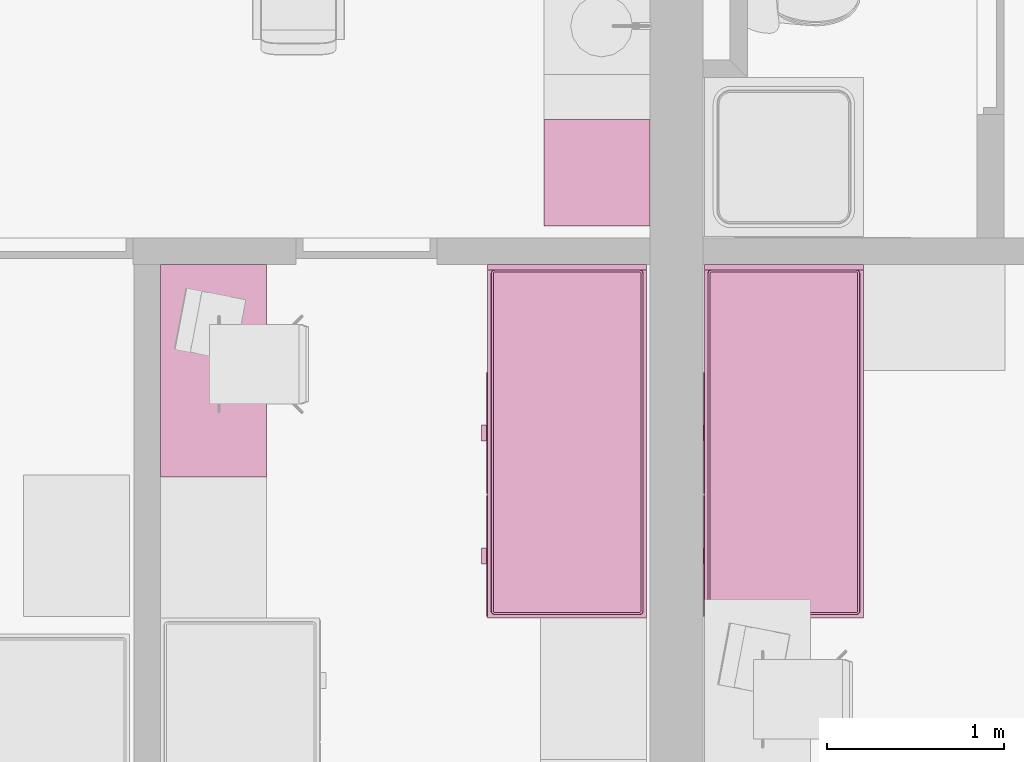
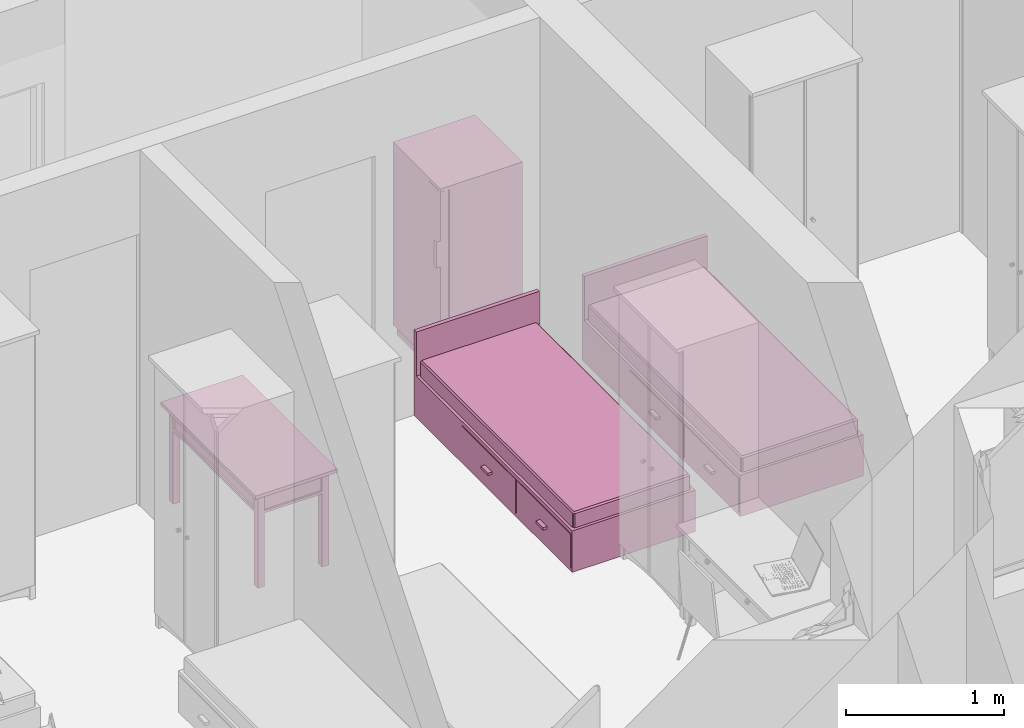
# One storey, part 130 of 172: 4 furnishings.
"""IFC2X3 building model written with IfcOpenShell, lengths in millimetres."""

from ifc_helpers import new_model, entity, si_unit, converted_unit, money_unit, direction, frame, origin_with_axes, place, context, subcontext, project, spatial, open_shell, faceted_brep, surface_model, source, transform, mapped, material, material_list, type_object, element, save


model = new_model("IFC2X3")

# Units and contexts
model_context = context("Model", 3, precision=1e-05, world=origin_with_axes(), true_north=direction((0.0, 1.0)))
body_context = subcontext(model_context, "Body", "Model", "MODEL_VIEW")
ifc_project = project(units=[si_unit("LENGTHUNIT", "METRE", prefix="MILLI"), si_unit("AREAUNIT", "SQUARE_METRE"), si_unit("VOLUMEUNIT", "CUBIC_METRE"), converted_unit("PLANEANGLEUNIT", "DEGREE", entity("IfcPlaneAngleMeasure", 0.0174532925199), si_unit("PLANEANGLEUNIT", "RADIAN"), dimensions=[0, 0, 0, 0, 0, 0, 0]), si_unit("SOLIDANGLEUNIT", "STERADIAN"), money_unit("USD"), converted_unit("TIMEUNIT", "Year", entity("IfcTimeMeasure", 31556926.0), si_unit("TIMEUNIT", "SECOND"), dimensions=[0, 0, 0, 0, 0, 0, 0]), si_unit("MASSUNIT", "GRAM"), si_unit("THERMODYNAMICTEMPERATUREUNIT", "DEGREE_CELSIUS"), si_unit("LUMINOUSINTENSITYUNIT", "LUMEN")], contexts=[model_context])

# Site, building, storey
site_placement = place(None, origin_with_axes())
site = spatial("IfcSite", under=ifc_project, at=site_placement, Name="Site", CompositionType="ELEMENT")
building_placement = place(site_placement, origin_with_axes())
building = spatial("IfcBuilding", under=site, at=building_placement, Name="Building", CompositionType="ELEMENT")
storey_placement = place(building_placement, frame((0.0, 0.0, 3200.0), z_axis=(0.0, 0.0, 1.0), x_axis=(1.0, 0.0, 0.0)))
storey = spatial("IfcBuildingStorey", under=building, at=storey_placement, Name="3KORRUS", CompositionType="ELEMENT", Elevation=3200.0)

# Furnishings
ifc_material = material(Name="Background")
ifc_material_list = material_list([ifc_material])
furnishing_element_type_1 = type_object("IfcFurnishingElementType", Name="Bed 19")
shared_shape_1 = source(origin_with_axes(), body_context, "Body", "Brep", [
    faceted_brep([(-900.0, 1970.0, 0.0), (-900.0, 2000.0, 0.0), (0.0, 2000.0, 0.0), (0.0, 1970.0, 0.0), (-900.0, 1970.0, 660.0), (-900.0, 2000.0, 660.0), (0.0, 2000.0, 660.0), (0.0, 1970.0, 660.0)], [[[0, 1, 2, 3]], [[0, 4, 5, 1]], [[1, 5, 6, 2]], [[2, 6, 7, 3]], [[3, 7, 4, 0]], [[7, 6, 5, 4]]]),
    faceted_brep([(-900.0, 0.0, 0.0), (-900.0, 1970.0, 0.0), (0.0, 1970.0, 0.0), (0.0, 0.0, 0.0), (-900.0, 0.0, 320.0), (-900.0, 1970.0, 320.0), (0.0, 1970.0, 320.0), (0.0, 0.0, 320.0)], [[[0, 1, 2, 3]], [[0, 4, 5, 1]], [[1, 5, 6, 2]], [[2, 6, 7, 3]], [[3, 7, 4, 0]], [[7, 6, 5, 4]]]),
    faceted_brep([(-905.0, 10.0, 30.0), (-905.0, 695.0, 30.0), (-900.0, 695.0, 30.0), (-900.0, 10.0, 30.0), (-905.0, 10.0, 290.0), (-905.0, 695.0, 290.0), (-900.0, 695.0, 290.0), (-900.0, 10.0, 290.0)], [[[0, 1, 2, 3]], [[0, 4, 5, 1]], [[1, 5, 6, 2]], [[2, 6, 7, 3]], [[3, 7, 4, 0]], [[7, 6, 5, 4]]]),
    faceted_brep([(-935.0, 307.5, 150.0), (-935.0, 397.5, 150.0), (-905.0, 397.5, 150.0), (-905.0, 307.5, 150.0), (-935.0, 307.5, 170.0), (-935.0, 397.5, 170.0), (-905.0, 397.5, 170.0), (-905.0, 307.5, 170.0)], [[[0, 1, 2, 3]], [[0, 4, 5, 1]], [[1, 5, 6, 2]], [[2, 6, 7, 3]], [[3, 7, 4, 0]], [[7, 6, 5, 4]]]),
    faceted_brep([(-905.0, 705.0, 30.0), (-905.0, 1390.0, 30.0), (-900.0, 1390.0, 30.0), (-900.0, 705.0, 30.0), (-905.0, 705.0, 290.0), (-905.0, 1390.0, 290.0), (-900.0, 1390.0, 290.0), (-900.0, 705.0, 290.0)], [[[0, 1, 2, 3]], [[0, 4, 5, 1]], [[1, 5, 6, 2]], [[2, 6, 7, 3]], [[3, 7, 4, 0]], [[7, 6, 5, 4]]]),
    faceted_brep([(-935.0, 1002.5, 150.0), (-935.0, 1092.5, 150.0), (-905.0, 1092.5, 150.0), (-905.0, 1002.5, 150.0), (-935.0, 1002.5, 170.0), (-935.0, 1092.5, 170.0), (-905.0, 1092.5, 170.0), (-905.0, 1002.5, 170.0)], [[[0, 1, 2, 3]], [[0, 4, 5, 1]], [[1, 5, 6, 2]], [[2, 6, 7, 3]], [[3, 7, 4, 0]], [[7, 6, 5, 4]]]),
    faceted_brep([(-20.0, 40.0, 350.0), (-21.522, 32.346, 350.0), (-25.858, 25.858, 350.0), (-32.346, 21.522, 350.0), (-40.0, 20.0, 350.0), (-860.0, 20.0, 350.0), (-867.654, 21.522, 350.0), (-874.142, 25.858, 350.0), (-878.478, 32.346, 350.0), (-880.0, 40.0, 350.0), (-880.0, 1950.0, 350.0), (-878.478, 1957.654, 350.0), (-874.142, 1964.142, 350.0), (-867.654, 1968.478, 350.0), (-860.0, 1970.0, 350.0), (-40.0, 1970.0, 350.0), (-32.346, 1968.478, 350.0), (-25.858, 1964.142, 350.0), (-21.522, 1957.654, 350.0), (-20.0, 1950.0, 350.0), (-20.0, 40.0, 420.0), (-21.522, 32.346, 420.0), (-25.858, 25.858, 420.0), (-32.346, 21.522, 420.0), (-40.0, 20.0, 420.0), (-860.0, 20.0, 420.0), (-867.654, 21.522, 420.0), (-874.142, 25.858, 420.0), (-878.478, 32.346, 420.0), (-880.0, 40.0, 420.0), (-880.0, 1950.0, 420.0), (-878.478, 1957.654, 420.0), (-874.142, 1964.142, 420.0), (-867.654, 1968.478, 420.0), (-860.0, 1970.0, 420.0), (-40.0, 1970.0, 420.0), (-32.346, 1968.478, 420.0), (-25.858, 1964.142, 420.0), (-21.522, 1957.654, 420.0), (-20.0, 1950.0, 420.0), (-21.522, 40.15, 427.654), (-22.956, 32.94, 427.654), (-26.955, 26.955, 427.654), (-32.94, 22.956, 427.654), (-40.15, 21.522, 427.654), (-859.85, 21.522, 427.654), (-867.06, 22.956, 427.654), (-873.045, 26.955, 427.654), (-877.044, 32.94, 427.654), (-878.478, 40.15, 427.654), (-878.478, 1949.85, 427.654), (-877.044, 1957.06, 427.654), (-873.045, 1963.045, 427.654), (-867.06, 1967.044, 427.654), (-859.85, 1968.478, 427.654), (-40.15, 1968.478, 427.654), (-32.94, 1967.044, 427.654), (-26.955, 1963.045, 427.654), (-22.956, 1957.06, 427.654), (-21.522, 1949.85, 427.654), (-32.346, 41.216, 438.478), (-33.152, 37.164, 438.478), (-34.759, 34.759, 438.478), (-37.164, 33.152, 438.478), (-41.216, 32.346, 438.478), (-858.784, 32.346, 438.478), (-862.836, 33.152, 438.478), (-865.241, 34.759, 438.478), (-866.848, 37.164, 438.478), (-867.654, 41.216, 438.478), (-867.654, 1948.784, 438.478), (-866.848, 1952.836, 438.478), (-865.241, 1955.241, 438.478), (-862.836, 1956.848, 438.478), (-858.784, 1957.654, 438.478), (-41.216, 1957.654, 438.478), (-37.164, 1956.848, 438.478), (-34.759, 1955.241, 438.478), (-33.152, 1952.836, 438.478), (-32.346, 1948.784, 438.478), (-40.0, 41.97, 440.0), (-40.327, 40.327, 440.0), (-40.0, 40.0, 439.924), (-41.97, 40.0, 440.0), (-858.03, 40.0, 440.0), (-859.673, 40.327, 440.0), (-860.0, 40.0, 439.924), (-860.0, 41.97, 440.0), (-860.0, 1948.03, 440.0), (-859.673, 1949.673, 440.0), (-860.0, 1950.0, 439.924), (-858.03, 1950.0, 440.0), (-41.97, 1950.0, 440.0), (-40.327, 1949.673, 440.0), (-40.0, 1950.0, 439.924), (-40.0, 1948.03, 440.0)], [[[0, 1, 2, 3, 4, 5, 6, 7, 8, 9, 10, 11, 12, 13, 14, 15, 16, 17, 18, 19]], [[0, 20, 21, 1]], [[1, 21, 22, 2]], [[2, 22, 23, 3]], [[3, 23, 24, 4]], [[4, 24, 25, 5]], [[5, 25, 26, 6]], [[6, 26, 27, 7]], [[7, 27, 28, 8]], [[8, 28, 29, 9]], [[9, 29, 30, 10]], [[10, 30, 31, 11]], [[11, 31, 32, 12]], [[12, 32, 33, 13]], [[13, 33, 34, 14]], [[14, 34, 35, 15]], [[15, 35, 36, 16]], [[16, 36, 37, 17]], [[17, 37, 38, 18]], [[18, 38, 39, 19]], [[19, 39, 20, 0]], [[20, 40, 41, 21]], [[21, 41, 42, 22]], [[22, 42, 43, 23]], [[23, 43, 44, 24]], [[24, 44, 45, 25]], [[25, 45, 46, 26]], [[26, 46, 47, 27]], [[27, 47, 48, 28]], [[28, 48, 49, 29]], [[29, 49, 50, 30]], [[30, 50, 51, 31]], [[31, 51, 52, 32]], [[32, 52, 53, 33]], [[33, 53, 54, 34]], [[34, 54, 55, 35]], [[35, 55, 56, 36]], [[36, 56, 57, 37]], [[37, 57, 58, 38]], [[38, 58, 59, 39]], [[39, 59, 40, 20]], [[40, 60, 61, 41]], [[41, 61, 62, 42]], [[42, 62, 63, 43]], [[43, 63, 64, 44]], [[44, 64, 65, 45]], [[45, 65, 66, 46]], [[46, 66, 67, 47]], [[47, 67, 68, 48]], [[48, 68, 69, 49]], [[49, 69, 70, 50]], [[50, 70, 71, 51]], [[51, 71, 72, 52]], [[52, 72, 73, 53]], [[53, 73, 74, 54]], [[54, 74, 75, 55]], [[55, 75, 76, 56]], [[56, 76, 77, 57]], [[57, 77, 78, 58]], [[58, 78, 79, 59]], [[59, 79, 60, 40]], [[60, 80, 81, 82, 61]], [[61, 82, 62]], [[62, 82, 63]], [[63, 82, 81, 83, 64]], [[64, 83, 84, 65]], [[65, 84, 85, 86, 66]], [[66, 86, 67]], [[67, 86, 68]], [[68, 86, 85, 87, 69]], [[69, 87, 88, 70]], [[70, 88, 89, 90, 71]], [[71, 90, 72]], [[72, 90, 73]], [[73, 90, 89, 91, 74]], [[74, 91, 92, 75]], [[75, 92, 93, 94, 76]], [[76, 94, 77]], [[77, 94, 78]], [[78, 94, 93, 95, 79]], [[79, 95, 80, 60]], [[95, 93, 92, 91, 89, 88, 87, 85, 84, 83, 81, 80]]]),
    faceted_brep([(-20.0, 40.0, 350.0), (-20.0, 1950.0, 350.0), (-21.522, 1957.654, 350.0), (-25.858, 1964.142, 350.0), (-32.346, 1968.478, 350.0), (-40.0, 1970.0, 350.0), (-860.0, 1970.0, 350.0), (-867.654, 1968.478, 350.0), (-874.142, 1964.142, 350.0), (-878.478, 1957.654, 350.0), (-880.0, 1950.0, 350.0), (-880.0, 40.0, 350.0), (-878.478, 32.346, 350.0), (-874.142, 25.858, 350.0), (-867.654, 21.522, 350.0), (-860.0, 20.0, 350.0), (-40.0, 20.0, 350.0), (-32.346, 21.522, 350.0), (-25.858, 25.858, 350.0), (-21.522, 32.346, 350.0), (-20.0, 40.0, 320.0), (-20.0, 1950.0, 320.0), (-21.522, 1957.654, 320.0), (-25.858, 1964.142, 320.0), (-32.346, 1968.478, 320.0), (-40.0, 1970.0, 320.0), (-860.0, 1970.0, 320.0), (-867.654, 1968.478, 320.0), (-874.142, 1964.142, 320.0), (-878.478, 1957.654, 320.0), (-880.0, 1950.0, 320.0), (-880.0, 40.0, 320.0), (-878.478, 32.346, 320.0), (-874.142, 25.858, 320.0), (-867.654, 21.522, 320.0), (-860.0, 20.0, 320.0), (-40.0, 20.0, 320.0), (-32.346, 21.522, 320.0), (-25.858, 25.858, 320.0), (-21.522, 32.346, 320.0)], [[[0, 1, 2, 3, 4, 5, 6, 7, 8, 9, 10, 11, 12, 13, 14, 15, 16, 17, 18, 19]], [[1, 0, 20, 21]], [[2, 1, 21, 22]], [[3, 2, 22, 23]], [[4, 3, 23, 24]], [[5, 4, 24, 25]], [[6, 5, 25, 26]], [[7, 6, 26, 27]], [[8, 7, 27, 28]], [[9, 8, 28, 29]], [[10, 9, 29, 30]], [[11, 10, 30, 31]], [[12, 11, 31, 32]], [[13, 12, 32, 33]], [[14, 13, 33, 34]], [[15, 14, 34, 35]], [[16, 15, 35, 36]], [[17, 16, 36, 37]], [[18, 17, 37, 38]], [[19, 18, 38, 39]], [[0, 19, 39, 20]], [[20, 39, 38, 37, 36, 35, 34, 33, 32, 31, 30, 29, 28, 27, 26, 25, 24, 23, 22, 21]]]),
])
for number, where, z_axis, x_axis, name in (
    (1, (5689.70329669, -17439.2398994, 0.0), (0.0, 0.0, 1.0), (1.0, 0.0, 0.0), "FU - 013"),
    (2, (6915.99169205, -17439.2398994, 0.0), (0.0, 0.0, 1.0), (1.0, 0.0, 0.0), "FU - 013"),
):
    element("IfcFurnishingElement", number, at=place(storey_placement, frame(where, z_axis=z_axis, x_axis=x_axis)), inside=storey, type_object=furnishing_element_type_1, material=ifc_material_list, Name=name, context=body_context, shape_type="MappedRepresentation", body=[
        mapped(shared_shape_1, transform((0.0, 0.0, 0.0))),
    ])
furnishing_element_type_2 = type_object("IfcFurnishingElementType", Name="Refrigerator 19")
shared_shape_2 = source(origin_with_axes(), body_context, "Body", "SurfaceModel", [
    faceted_brep([(0.0, 0.0, 1475.0), (600.0, 0.0, 1475.0), (600.0, 0.0, 1500.0), (0.0, 0.0, 1500.0), (0.0, 600.0, 1475.0), (600.0, 600.0, 1475.0), (600.0, 600.0, 1500.0), (0.0, 600.0, 1500.0)], [[[0, 1, 2, 3]], [[0, 4, 5, 1]], [[1, 5, 6, 2]], [[3, 2, 6, 7]], [[4, 0, 3, 7]], [[5, 4, 7, 6]]]),
    faceted_brep([(0.0, 65.0, 0.0), (600.0, 65.0, 0.0), (600.0, 65.0, 1475.0), (0.0, 65.0, 1475.0), (0.0, 600.0, 0.0), (600.0, 600.0, 0.0), (600.0, 600.0, 1475.0), (0.0, 600.0, 1475.0)], [[[0, 1, 2, 3]], [[0, 4, 5, 1]], [[1, 5, 6, 2]], [[3, 2, 6, 7]], [[4, 0, 3, 7]], [[5, 4, 7, 6]]]),
    faceted_brep([(0.0, 30.0, 0.0), (600.0, 30.0, 0.0), (600.0, 30.0, 90.0), (0.0, 30.0, 90.0), (0.0, 60.0, 0.0), (600.0, 60.0, 0.0), (600.0, 60.0, 90.0), (0.0, 60.0, 90.0)], [[[0, 1, 2, 3]], [[0, 4, 5, 1]], [[1, 5, 6, 2]], [[3, 2, 6, 7]], [[4, 0, 3, 7]], [[5, 4, 7, 6]]]),
    faceted_brep([(0.0, 60.0, 90.0), (600.0, 60.0, 90.0), (600.0, 0.0, 90.0), (0.0, 0.0, 90.0), (0.0, 60.0, 1474.5), (600.0, 60.0, 1474.5), (600.0, 0.0, 1474.5), (0.0, 0.0, 1474.5)], [[[0, 1, 2, 3]], [[0, 4, 5, 1]], [[1, 5, 6, 2]], [[3, 2, 6, 7]], [[4, 0, 3, 7]], [[5, 4, 7, 6]]]),
    surface_model("IfcShellBasedSurfaceModel", [(600.0, -30.0, 900.0), (600.0, -30.0, 1100.0), (600.0, 0.0, 1100.0), (600.0, 0.0, 900.0)], [open_shell([[[0, 1, 2, 3]]])]),
    surface_model("IfcShellBasedSurfaceModel", [(600.0, -30.0, 900.0), (600.0, -30.0, 1100.0), (570.0, -30.0, 1100.0), (570.0, -30.0, 900.0)], [open_shell([[[0, 1, 2, 3]]])]),
])
furnishing_1_placement = place(storey_placement, frame((5109.70329669, -14619.2398994, 0.0), z_axis=(0.0, 0.0, 1.0), x_axis=(0.0, -1.0, 0.0)))
element("IfcFurnishingElement", 3, at=furnishing_1_placement, inside=storey, type_object=furnishing_element_type_2, material=ifc_material_list, Name="FU - 007", context=body_context, shape_type="MappedRepresentation", body=[
    mapped(shared_shape_2, transform((0.0, 0.0, 0.0))),
])
furnishing_element_type_3 = type_object("IfcFurnishingElementType", Name="Rectangular Table 01 19")
shared_shape_3 = source(origin_with_axes(), body_context, "Body", "Brep", [
    faceted_brep([(-90.0, 40.0, 0.0), (-90.0, 90.0, 0.0), (-40.0, 90.0, 0.0), (-40.0, 40.0, 0.0), (-90.0, 40.0, 725.0), (-90.0, 90.0, 725.0), (-40.0, 90.0, 725.0), (-40.0, 40.0, 725.0)], [[[0, 1, 2, 3]], [[0, 4, 5, 1]], [[1, 5, 6, 2]], [[2, 6, 7, 3]], [[3, 7, 4, 0]], [[7, 6, 5, 4]]]),
    faceted_brep([(-1160.0, 40.0, 0.0), (-1160.0, 90.0, 0.0), (-1110.0, 90.0, 0.0), (-1110.0, 40.0, 0.0), (-1160.0, 40.0, 725.0), (-1160.0, 90.0, 725.0), (-1110.0, 90.0, 725.0), (-1110.0, 40.0, 725.0)], [[[0, 1, 2, 3]], [[0, 4, 5, 1]], [[1, 5, 6, 2]], [[2, 6, 7, 3]], [[3, 7, 4, 0]], [[7, 6, 5, 4]]]),
    faceted_brep([(-90.0, 510.0, 0.0), (-90.0, 560.0, 0.0), (-40.0, 560.0, 0.0), (-40.0, 510.0, 0.0), (-90.0, 510.0, 725.0), (-90.0, 560.0, 725.0), (-40.0, 560.0, 725.0), (-40.0, 510.0, 725.0)], [[[0, 1, 2, 3]], [[0, 4, 5, 1]], [[1, 5, 6, 2]], [[2, 6, 7, 3]], [[3, 7, 4, 0]], [[7, 6, 5, 4]]]),
    faceted_brep([(-1160.0, 510.0, 0.0), (-1160.0, 560.0, 0.0), (-1110.0, 560.0, 0.0), (-1110.0, 510.0, 0.0), (-1160.0, 510.0, 725.0), (-1160.0, 560.0, 725.0), (-1110.0, 560.0, 725.0), (-1110.0, 510.0, 725.0)], [[[0, 1, 2, 3]], [[0, 4, 5, 1]], [[1, 5, 6, 2]], [[2, 6, 7, 3]], [[3, 7, 4, 0]], [[7, 6, 5, 4]]]),
    faceted_brep([(-1160.0, 40.0, 565.0), (-1160.0, 560.0, 565.0), (-40.0, 560.0, 565.0), (-40.0, 40.0, 565.0), (-1160.0, 40.0, 585.0), (-1160.0, 560.0, 585.0), (-40.0, 560.0, 585.0), (-40.0, 40.0, 585.0)], [[[0, 1, 2, 3]], [[0, 4, 5, 1]], [[1, 5, 6, 2]], [[2, 6, 7, 3]], [[3, 7, 4, 0]], [[7, 6, 5, 4]]]),
    faceted_brep([(-1110.0, 52.5, 585.0), (-1110.0, 77.5, 585.0), (-90.0, 77.5, 585.0), (-90.0, 52.5, 585.0), (-1110.0, 52.5, 745.0), (-1110.0, 77.5, 745.0), (-90.0, 77.5, 745.0), (-90.0, 52.5, 745.0)], [[[0, 1, 2, 3]], [[0, 4, 5, 1]], [[1, 5, 6, 2]], [[2, 6, 7, 3]], [[3, 7, 4, 0]], [[7, 6, 5, 4]]]),
    faceted_brep([(-77.5, 90.0, 585.0), (-77.5, 510.0, 585.0), (-52.5, 510.0, 585.0), (-52.5, 90.0, 585.0), (-77.5, 90.0, 745.0), (-77.5, 510.0, 745.0), (-52.5, 510.0, 745.0), (-52.5, 90.0, 745.0)], [[[0, 1, 2, 3]], [[0, 4, 5, 1]], [[1, 5, 6, 2]], [[2, 6, 7, 3]], [[3, 7, 4, 0]], [[7, 6, 5, 4]]]),
    faceted_brep([(-90.0, 547.5, 585.0), (-90.0, 522.5, 585.0), (-1110.0, 522.5, 585.0), (-1110.0, 547.5, 585.0), (-90.0, 547.5, 745.0), (-90.0, 522.5, 745.0), (-1110.0, 522.5, 745.0), (-1110.0, 547.5, 745.0)], [[[0, 1, 2, 3]], [[0, 4, 5, 1]], [[1, 5, 6, 2]], [[2, 6, 7, 3]], [[3, 7, 4, 0]], [[7, 6, 5, 4]]]),
    faceted_brep([(-1122.5, 510.0, 585.0), (-1122.5, 90.0, 585.0), (-1147.5, 90.0, 585.0), (-1147.5, 510.0, 585.0), (-1122.5, 510.0, 745.0), (-1122.5, 90.0, 745.0), (-1147.5, 90.0, 745.0), (-1147.5, 510.0, 745.0)], [[[0, 1, 2, 3]], [[0, 4, 5, 1]], [[1, 5, 6, 2]], [[2, 6, 7, 3]], [[3, 7, 4, 0]], [[7, 6, 5, 4]]]),
    faceted_brep([(-597.5, 40.0, 585.0), (-597.5, 60.0, 585.0), (-95.0, 60.0, 585.0), (-95.0, 40.0, 585.0), (-597.5, 40.0, 745.0), (-597.5, 60.0, 745.0), (-95.0, 60.0, 745.0), (-95.0, 40.0, 745.0)], [[[0, 1, 2, 3]], [[0, 4, 5, 1]], [[1, 5, 6, 2]], [[2, 6, 7, 3]], [[3, 7, 4, 0]], [[7, 6, 5, 4]]]),
    faceted_brep([(-1105.0, 40.0, 585.0), (-1105.0, 60.0, 585.0), (-602.5, 60.0, 585.0), (-602.5, 40.0, 585.0), (-1105.0, 40.0, 745.0), (-1105.0, 60.0, 745.0), (-602.5, 60.0, 745.0), (-602.5, 40.0, 745.0)], [[[0, 1, 2, 3]], [[0, 4, 5, 1]], [[1, 5, 6, 2]], [[2, 6, 7, 3]], [[3, 7, 4, 0]], [[7, 6, 5, 4]]]),
    faceted_brep([(-354.91, 40.0, 660.0), (-356.25, 40.0, 665.0), (-354.91, 40.0, 670.0), (-351.25, 40.0, 673.66), (-346.25, 40.0, 675.0), (-341.25, 40.0, 673.66), (-337.59, 40.0, 670.0), (-336.25, 40.0, 665.0), (-337.59, 40.0, 660.0), (-341.25, 40.0, 656.34), (-346.25, 40.0, 655.0), (-351.25, 40.0, 656.34), (-354.91, 25.0, 660.0), (-356.25, 25.0, 665.0), (-354.91, 25.0, 670.0), (-351.25, 25.0, 673.66), (-346.25, 25.0, 675.0), (-341.25, 25.0, 673.66), (-337.59, 25.0, 670.0), (-336.25, 25.0, 665.0), (-337.59, 25.0, 660.0), (-341.25, 25.0, 656.34), (-346.25, 25.0, 655.0), (-351.25, 25.0, 656.34)], [[[0, 1, 2, 3, 4, 5, 6, 7, 8, 9, 10, 11]], [[0, 12, 13, 1]], [[1, 13, 14, 2]], [[2, 14, 15, 3]], [[3, 15, 16, 4]], [[4, 16, 17, 5]], [[5, 17, 18, 6]], [[6, 18, 19, 7]], [[7, 19, 20, 8]], [[8, 20, 21, 9]], [[9, 21, 22, 10]], [[10, 22, 23, 11]], [[11, 23, 12, 0]], [[12, 23, 22, 21, 20, 19, 18, 17, 16, 15, 14, 13]]]),
    faceted_brep([(-356.25, 12.01, 665.0), (-354.91, 12.01, 660.0), (-346.25, 10.0, 665.0), (-363.571, 17.5, 665.0), (-361.25, 17.5, 656.34), (-351.25, 12.01, 656.34), (-354.91, 12.01, 670.0), (-366.25, 25.0, 665.0), (-363.571, 25.0, 655.0), (-354.91, 17.5, 650.0), (-361.25, 17.5, 673.66), (-346.25, 12.01, 655.0), (-351.25, 12.01, 673.66), (-363.571, 25.0, 675.0), (-356.25, 25.0, 682.321), (-346.25, 25.0, 685.0), (-336.25, 25.0, 682.321), (-328.929, 25.0, 675.0), (-326.25, 25.0, 665.0), (-328.929, 25.0, 655.0), (-336.25, 25.0, 647.679), (-346.25, 25.0, 645.0), (-356.25, 25.0, 647.679), (-346.25, 17.5, 647.679), (-354.91, 17.5, 680.0), (-341.25, 12.01, 656.34), (-346.25, 12.01, 675.0), (-346.25, 17.5, 682.321), (-337.59, 17.5, 680.0), (-331.25, 17.5, 673.66), (-328.929, 17.5, 665.0), (-331.25, 17.5, 656.34), (-337.59, 17.5, 650.0), (-337.59, 12.01, 660.0), (-341.25, 12.01, 673.66), (-337.59, 12.01, 670.0), (-336.25, 12.01, 665.0)], [[[0, 1, 2]], [[3, 4, 1, 0]], [[1, 5, 2]], [[6, 0, 2]], [[7, 8, 4, 3]], [[4, 9, 5, 1]], [[10, 3, 0, 6]], [[5, 11, 2]], [[12, 6, 2]], [[8, 7, 13, 14, 15, 16, 17, 18, 19, 20, 21, 22]], [[8, 22, 9, 4]], [[13, 7, 3, 10]], [[9, 23, 11, 5]], [[24, 10, 6, 12]], [[11, 25, 2]], [[26, 12, 2]], [[14, 13, 10, 24]], [[15, 14, 24, 27]], [[16, 15, 27, 28]], [[17, 16, 28, 29]], [[18, 17, 29, 30]], [[19, 18, 30, 31]], [[20, 19, 31, 32]], [[21, 20, 32, 23]], [[22, 21, 23, 9]], [[23, 32, 25, 11]], [[27, 24, 12, 26]], [[25, 33, 2]], [[34, 26, 2]], [[28, 27, 26, 34]], [[29, 28, 34, 35]], [[30, 29, 35, 36]], [[31, 30, 36, 33]], [[32, 31, 33, 25]], [[33, 36, 2]], [[35, 34, 2]], [[36, 35, 2]]]),
    faceted_brep([(-862.41, 40.0, 660.0), (-863.75, 40.0, 665.0), (-862.41, 40.0, 670.0), (-858.75, 40.0, 673.66), (-853.75, 40.0, 675.0), (-848.75, 40.0, 673.66), (-845.09, 40.0, 670.0), (-843.75, 40.0, 665.0), (-845.09, 40.0, 660.0), (-848.75, 40.0, 656.34), (-853.75, 40.0, 655.0), (-858.75, 40.0, 656.34), (-862.41, 25.0, 660.0), (-863.75, 25.0, 665.0), (-862.41, 25.0, 670.0), (-858.75, 25.0, 673.66), (-853.75, 25.0, 675.0), (-848.75, 25.0, 673.66), (-845.09, 25.0, 670.0), (-843.75, 25.0, 665.0), (-845.09, 25.0, 660.0), (-848.75, 25.0, 656.34), (-853.75, 25.0, 655.0), (-858.75, 25.0, 656.34)], [[[0, 1, 2, 3, 4, 5, 6, 7, 8, 9, 10, 11]], [[0, 12, 13, 1]], [[1, 13, 14, 2]], [[2, 14, 15, 3]], [[3, 15, 16, 4]], [[4, 16, 17, 5]], [[5, 17, 18, 6]], [[6, 18, 19, 7]], [[7, 19, 20, 8]], [[8, 20, 21, 9]], [[9, 21, 22, 10]], [[10, 22, 23, 11]], [[11, 23, 12, 0]], [[12, 23, 22, 21, 20, 19, 18, 17, 16, 15, 14, 13]]]),
    faceted_brep([(-863.75, 12.01, 665.0), (-862.41, 12.01, 660.0), (-853.75, 10.0, 665.0), (-871.071, 17.5, 665.0), (-868.75, 17.5, 656.34), (-858.75, 12.01, 656.34), (-862.41, 12.01, 670.0), (-873.75, 25.0, 665.0), (-871.071, 25.0, 655.0), (-862.41, 17.5, 650.0), (-868.75, 17.5, 673.66), (-853.75, 12.01, 655.0), (-858.75, 12.01, 673.66), (-871.071, 25.0, 675.0), (-863.75, 25.0, 682.321), (-853.75, 25.0, 685.0), (-843.75, 25.0, 682.321), (-836.429, 25.0, 675.0), (-833.75, 25.0, 665.0), (-836.429, 25.0, 655.0), (-843.75, 25.0, 647.679), (-853.75, 25.0, 645.0), (-863.75, 25.0, 647.679), (-853.75, 17.5, 647.679), (-862.41, 17.5, 680.0), (-848.75, 12.01, 656.34), (-853.75, 12.01, 675.0), (-853.75, 17.5, 682.321), (-845.09, 17.5, 680.0), (-838.75, 17.5, 673.66), (-836.429, 17.5, 665.0), (-838.75, 17.5, 656.34), (-845.09, 17.5, 650.0), (-845.09, 12.01, 660.0), (-848.75, 12.01, 673.66), (-845.09, 12.01, 670.0), (-843.75, 12.01, 665.0)], [[[0, 1, 2]], [[3, 4, 1, 0]], [[1, 5, 2]], [[6, 0, 2]], [[7, 8, 4, 3]], [[4, 9, 5, 1]], [[10, 3, 0, 6]], [[5, 11, 2]], [[12, 6, 2]], [[8, 7, 13, 14, 15, 16, 17, 18, 19, 20, 21, 22]], [[8, 22, 9, 4]], [[13, 7, 3, 10]], [[9, 23, 11, 5]], [[24, 10, 6, 12]], [[11, 25, 2]], [[26, 12, 2]], [[14, 13, 10, 24]], [[15, 14, 24, 27]], [[16, 15, 27, 28]], [[17, 16, 28, 29]], [[18, 17, 29, 30]], [[19, 18, 30, 31]], [[20, 19, 31, 32]], [[21, 20, 32, 23]], [[22, 21, 23, 9]], [[23, 32, 25, 11]], [[27, 24, 12, 26]], [[25, 33, 2]], [[34, 26, 2]], [[28, 27, 26, 34]], [[29, 28, 34, 35]], [[30, 29, 35, 36]], [[31, 30, 36, 33]], [[32, 31, 33, 25]], [[33, 36, 2]], [[35, 34, 2]], [[36, 35, 2]]]),
    faceted_brep([(-1200.0, 0.0, 725.0), (-1200.0, 600.0, 725.0), (0.0, 600.0, 725.0), (0.0, 0.0, 725.0), (-1200.0, 0.0, 750.0), (-1200.0, 600.0, 750.0), (0.0, 600.0, 750.0), (0.0, 0.0, 750.0)], [[[0, 1, 2, 3]], [[0, 4, 5, 1]], [[1, 5, 6, 2]], [[2, 6, 7, 3]], [[3, 7, 4, 0]], [[7, 6, 5, 4]]]),
])
furnishing_2_placement = place(storey_placement, frame((3539.70329669, -15439.2398994, 0.0), z_axis=(0.0, 0.0, 1.0), x_axis=(0.0, 1.0, 0.0)))
element("IfcFurnishingElement", 4, at=furnishing_2_placement, inside=storey, type_object=furnishing_element_type_3, material=ifc_material_list, Name="FU - 011", context=body_context, shape_type="MappedRepresentation", body=[
    mapped(shared_shape_3, transform((0.0, 0.0, 0.0))),
])

save(model, "model.ifc")
